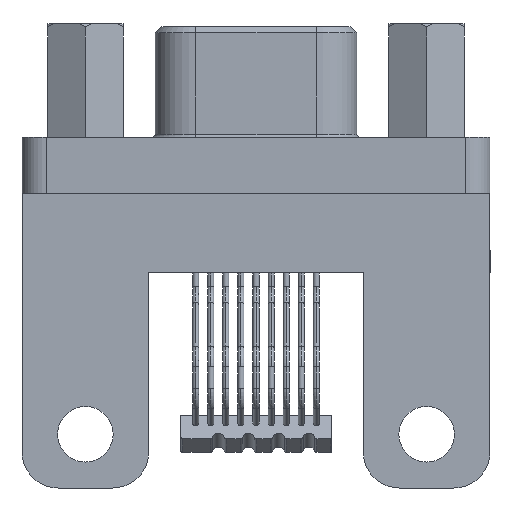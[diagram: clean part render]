
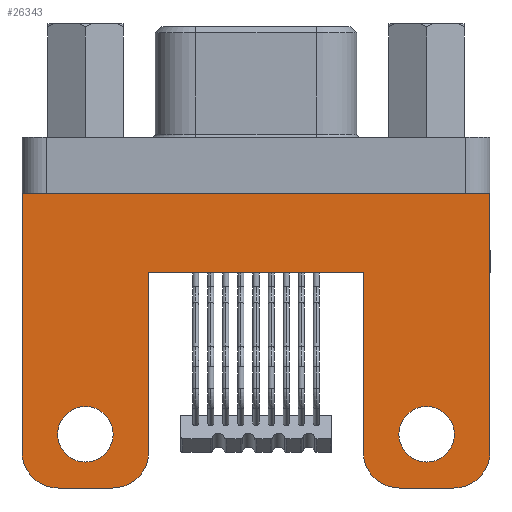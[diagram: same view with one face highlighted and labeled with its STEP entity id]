
A CAD part, front view. The second image highlights one B-rep face of the part: STEP entity #26343.
In plain terms, the highlighted planar face has unit normal (0, -1, 0).
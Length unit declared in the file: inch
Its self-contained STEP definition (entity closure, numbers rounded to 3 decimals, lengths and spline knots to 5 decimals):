
#538 = VERTEX_POINT ( 'NONE', #15793 ) ;
#675 = VECTOR ( 'NONE', #11310, 39.37008 ) ;
#853 = LINE ( 'NONE', #15294, #14038 ) ;
#990 = CIRCLE ( 'NONE', #45632, 0.046 ) ;
#1903 = ORIENTED_EDGE ( 'NONE', *, *, #36820, .F. ) ;
#2058 = EDGE_CURVE ( 'NONE', #5656, #5600, #6102, .T. ) ;
#2093 = CARTESIAN_POINT ( 'NONE',  ( -0.2825, -0.17, -0.496 ) ) ;
#2139 = VERTEX_POINT ( 'NONE', #28234 ) ;
#2302 = PLANE ( 'NONE',  #13238 ) ;
#3594 = ORIENTED_EDGE ( 'NONE', *, *, #45922, .T. ) ;
#3885 = DIRECTION ( 'NONE',  ( 0., -1., 0. ) ) ;
#3918 = DIRECTION ( 'NONE',  ( 0., 0., 1. ) ) ;
#4106 = LINE ( 'NONE', #21437, #39034 ) ;
#4772 = EDGE_LOOP ( 'NONE', ( #13291, #39200, #23576, #6573, #1903, #31386, #7840, #3594, #12936, #13112, #33176, #25483 ) ) ;
#4942 = EDGE_CURVE ( 'NONE', #2139, #21550, #12815, .T. ) ;
#5188 = VERTEX_POINT ( 'NONE', #11355 ) ;
#5600 = VERTEX_POINT ( 'NONE', #26969 ) ;
#5656 = VERTEX_POINT ( 'NONE', #45403 ) ;
#6102 = CIRCLE ( 'NONE', #32632, 0.06 ) ;
#6145 = DIRECTION ( 'NONE',  ( 0., 0., 1. ) ) ;
#6360 = DIRECTION ( 'NONE',  ( 0., 0., 1. ) ) ;
#6411 = VECTOR ( 'NONE', #44078, 39.37008 ) ;
#6573 = ORIENTED_EDGE ( 'NONE', *, *, #4942, .T. ) ;
#7472 = CARTESIAN_POINT ( 'NONE',  ( 0.2375, -0.17, -0.479 ) ) ;
#7840 = ORIENTED_EDGE ( 'NONE', *, *, #43621, .F. ) ;
#8022 = CARTESIAN_POINT ( 'NONE',  ( 0.2825, -0.17, -0.496 ) ) ;
#8825 = DIRECTION ( 'NONE',  ( 0., -1., 0. ) ) ;
#9018 = CARTESIAN_POINT ( 'NONE',  ( 0.3875, -0.17, -0.051 ) ) ;
#9262 = EDGE_CURVE ( 'NONE', #38410, #9884, #14976, .T. ) ;
#9456 = DIRECTION ( 'NONE',  ( 0., 1., 0. ) ) ;
#9884 = VERTEX_POINT ( 'NONE', #2093 ) ;
#10260 = VERTEX_POINT ( 'NONE', #37255 ) ;
#11085 = CARTESIAN_POINT ( 'NONE',  ( 0.3875, -0.17, -0.182 ) ) ;
#11310 = DIRECTION ( 'NONE',  ( 1., 0., 0. ) ) ;
#11355 = CARTESIAN_POINT ( 'NONE',  ( 0.1775, -0.17, -0.182 ) ) ;
#11385 = CARTESIAN_POINT ( 'NONE',  ( 0.3275, -0.17, -0.479 ) ) ;
#12348 = ORIENTED_EDGE ( 'NONE', *, *, #46125, .T. ) ;
#12466 = CARTESIAN_POINT ( 'NONE',  ( -0.2825, -0.17, -0.45 ) ) ;
#12475 = ORIENTED_EDGE ( 'NONE', *, *, #9262, .T. ) ;
#12595 = EDGE_CURVE ( 'NONE', #538, #16346, #34832, .T. ) ;
#12814 = DIRECTION ( 'NONE',  ( 0., 0., 1. ) ) ;
#12815 = LINE ( 'NONE', #9018, #23758 ) ;
#12936 = ORIENTED_EDGE ( 'NONE', *, *, #12595, .T. ) ;
#13112 = ORIENTED_EDGE ( 'NONE', *, *, #41675, .T. ) ;
#13238 = AXIS2_PLACEMENT_3D ( 'NONE', #13669, #35272, #43060 ) ;
#13291 = ORIENTED_EDGE ( 'NONE', *, *, #26485, .F. ) ;
#13669 = CARTESIAN_POINT ( 'NONE',  ( 0.3875, -0.17, -1.02047 ) ) ;
#14038 = VECTOR ( 'NONE', #29777, 39.37008 ) ;
#14289 = EDGE_CURVE ( 'NONE', #24153, #2139, #18969, .T. ) ;
#14498 = CIRCLE ( 'NONE', #39506, 0.046 ) ;
#14952 = DIRECTION ( 'NONE',  ( 0., 0., 1. ) ) ;
#14976 = CIRCLE ( 'NONE', #20266, 0.046 ) ;
#15234 = CARTESIAN_POINT ( 'NONE',  ( -0.2375, -0.17, -0.479 ) ) ;
#15294 = CARTESIAN_POINT ( 'NONE',  ( 0.3875, -0.17, -0.539 ) ) ;
#15621 = VERTEX_POINT ( 'NONE', #39871 ) ;
#15793 = CARTESIAN_POINT ( 'NONE',  ( -0.1775, -0.17, -0.479 ) ) ;
#16346 = VERTEX_POINT ( 'NONE', #30976 ) ;
#17027 = AXIS2_PLACEMENT_3D ( 'NONE', #12466, #45182, #30513 ) ;
#18123 = DIRECTION ( 'NONE',  ( 0., 0., 1. ) ) ;
#18344 = CIRCLE ( 'NONE', #44828, 0.06 ) ;
#18356 = DIRECTION ( 'NONE',  ( 0., 0., 1. ) ) ;
#18571 = CARTESIAN_POINT ( 'NONE',  ( -0.3875, -0.17, -0.539 ) ) ;
#18929 = AXIS2_PLACEMENT_3D ( 'NONE', #11385, #39359, #39834 ) ;
#18969 = LINE ( 'NONE', #26345, #6411 ) ;
#19116 = CARTESIAN_POINT ( 'NONE',  ( 0.3875, -0.17, -0.479 ) ) ;
#19895 = EDGE_CURVE ( 'NONE', #15621, #10260, #21027, .T. ) ;
#20266 = AXIS2_PLACEMENT_3D ( 'NONE', #45069, #34180, #12814 ) ;
#20317 = FACE_BOUND ( 'NONE', #46152, .T. ) ;
#21027 = CIRCLE ( 'NONE', #39167, 0.06 ) ;
#21437 = CARTESIAN_POINT ( 'NONE',  ( -0.3875, -0.17, -1.02047 ) ) ;
#21550 = VERTEX_POINT ( 'NONE', #43520 ) ;
#21753 = VERTEX_POINT ( 'NONE', #36597 ) ;
#22221 = EDGE_CURVE ( 'NONE', #31790, #46656, #14498, .T. ) ;
#23527 = DIRECTION ( 'NONE',  ( -1., 0., 0. ) ) ;
#23576 = ORIENTED_EDGE ( 'NONE', *, *, #14289, .T. ) ;
#23758 = VECTOR ( 'NONE', #23527, 39.37008 ) ;
#23791 = CARTESIAN_POINT ( 'NONE',  ( 0.2825, -0.17, -0.404 ) ) ;
#23963 = DIRECTION ( 'NONE',  ( 0., 0., 1. ) ) ;
#24153 = VERTEX_POINT ( 'NONE', #19116 ) ;
#24286 = CIRCLE ( 'NONE', #18929, 0.06 ) ;
#24868 = ORIENTED_EDGE ( 'NONE', *, *, #22221, .T. ) ;
#25483 = ORIENTED_EDGE ( 'NONE', *, *, #2058, .T. ) ;
#26127 = DIRECTION ( 'NONE',  ( 0., 0., 1. ) ) ;
#26343 = ADVANCED_FACE ( 'NONE', ( #44997, #20317, #34800 ), #2302, .F. ) ;
#26345 = CARTESIAN_POINT ( 'NONE',  ( 0.3875, -0.17, -1.02047 ) ) ;
#26485 = EDGE_CURVE ( 'NONE', #21753, #5600, #853, .T. ) ;
#26969 = CARTESIAN_POINT ( 'NONE',  ( 0.2375, -0.17, -0.539 ) ) ;
#27005 = CIRCLE ( 'NONE', #17027, 0.046 ) ;
#27183 = EDGE_CURVE ( 'NONE', #9884, #38410, #27005, .T. ) ;
#28234 = CARTESIAN_POINT ( 'NONE',  ( 0.3875, -0.17, -0.051 ) ) ;
#29312 = EDGE_CURVE ( 'NONE', #21753, #24153, #24286, .T. ) ;
#29777 = DIRECTION ( 'NONE',  ( -1., 0., 0. ) ) ;
#30212 = EDGE_CURVE ( 'NONE', #5656, #5188, #33917, .T. ) ;
#30346 = EDGE_LOOP ( 'NONE', ( #12475, #36347 ) ) ;
#30513 = DIRECTION ( 'NONE',  ( 0., 0., 1. ) ) ;
#30976 = CARTESIAN_POINT ( 'NONE',  ( -0.1775, -0.17, -0.182 ) ) ;
#31054 = CARTESIAN_POINT ( 'NONE',  ( 0.2825, -0.17, -0.45 ) ) ;
#31300 = DIRECTION ( 'NONE',  ( 0., -1., 0. ) ) ;
#31386 = ORIENTED_EDGE ( 'NONE', *, *, #19895, .T. ) ;
#31790 = VERTEX_POINT ( 'NONE', #8022 ) ;
#32632 = AXIS2_PLACEMENT_3D ( 'NONE', #7472, #8825, #3918 ) ;
#33043 = DIRECTION ( 'NONE',  ( -1., 0., 0. ) ) ;
#33176 = ORIENTED_EDGE ( 'NONE', *, *, #30212, .F. ) ;
#33917 = LINE ( 'NONE', #41250, #44783 ) ;
#34044 = VECTOR ( 'NONE', #6360, 39.37008 ) ;
#34180 = DIRECTION ( 'NONE',  ( 0., 1., 0. ) ) ;
#34800 = FACE_OUTER_BOUND ( 'NONE', #4772, .T. ) ;
#34832 = LINE ( 'NONE', #46422, #34044 ) ;
#35272 = DIRECTION ( 'NONE',  ( 0., 1., 0. ) ) ;
#36347 = ORIENTED_EDGE ( 'NONE', *, *, #27183, .T. ) ;
#36597 = CARTESIAN_POINT ( 'NONE',  ( 0.3275, -0.17, -0.539 ) ) ;
#36622 = CARTESIAN_POINT ( 'NONE',  ( -0.2375, -0.17, -0.539 ) ) ;
#36820 = EDGE_CURVE ( 'NONE', #15621, #21550, #4106, .T. ) ;
#37255 = CARTESIAN_POINT ( 'NONE',  ( -0.3275, -0.17, -0.539 ) ) ;
#38410 = VERTEX_POINT ( 'NONE', #45427 ) ;
#38605 = CARTESIAN_POINT ( 'NONE',  ( -0.3275, -0.17, -0.479 ) ) ;
#39034 = VECTOR ( 'NONE', #18123, 39.37008 ) ;
#39167 = AXIS2_PLACEMENT_3D ( 'NONE', #38605, #31300, #6145 ) ;
#39200 = ORIENTED_EDGE ( 'NONE', *, *, #29312, .T. ) ;
#39336 = VECTOR ( 'NONE', #33043, 39.37008 ) ;
#39359 = DIRECTION ( 'NONE',  ( 0., -1., 0. ) ) ;
#39506 = AXIS2_PLACEMENT_3D ( 'NONE', #44104, #43191, #14952 ) ;
#39834 = DIRECTION ( 'NONE',  ( 0., 0., 1. ) ) ;
#39871 = CARTESIAN_POINT ( 'NONE',  ( -0.3875, -0.17, -0.479 ) ) ;
#40132 = LINE ( 'NONE', #18571, #39336 ) ;
#40232 = LINE ( 'NONE', #11085, #675 ) ;
#41250 = CARTESIAN_POINT ( 'NONE',  ( 0.1775, -0.17, -1.3384 ) ) ;
#41675 = EDGE_CURVE ( 'NONE', #16346, #5188, #40232, .T. ) ;
#42595 = VERTEX_POINT ( 'NONE', #36622 ) ;
#43060 = DIRECTION ( 'NONE',  ( 0., 0., 1. ) ) ;
#43191 = DIRECTION ( 'NONE',  ( 0., 1., 0. ) ) ;
#43520 = CARTESIAN_POINT ( 'NONE',  ( -0.3875, -0.17, -0.051 ) ) ;
#43621 = EDGE_CURVE ( 'NONE', #42595, #10260, #40132, .T. ) ;
#44078 = DIRECTION ( 'NONE',  ( 0., 0., 1. ) ) ;
#44104 = CARTESIAN_POINT ( 'NONE',  ( 0.2825, -0.17, -0.45 ) ) ;
#44783 = VECTOR ( 'NONE', #26127, 39.37008 ) ;
#44828 = AXIS2_PLACEMENT_3D ( 'NONE', #15234, #3885, #18356 ) ;
#44997 = FACE_BOUND ( 'NONE', #30346, .T. ) ;
#45069 = CARTESIAN_POINT ( 'NONE',  ( -0.2825, -0.17, -0.45 ) ) ;
#45182 = DIRECTION ( 'NONE',  ( 0., 1., 0. ) ) ;
#45403 = CARTESIAN_POINT ( 'NONE',  ( 0.1775, -0.17, -0.479 ) ) ;
#45427 = CARTESIAN_POINT ( 'NONE',  ( -0.2825, -0.17, -0.404 ) ) ;
#45632 = AXIS2_PLACEMENT_3D ( 'NONE', #31054, #9456, #23963 ) ;
#45922 = EDGE_CURVE ( 'NONE', #42595, #538, #18344, .T. ) ;
#46125 = EDGE_CURVE ( 'NONE', #46656, #31790, #990, .T. ) ;
#46152 = EDGE_LOOP ( 'NONE', ( #12348, #24868 ) ) ;
#46422 = CARTESIAN_POINT ( 'NONE',  ( -0.1775, -0.17, -1.3384 ) ) ;
#46656 = VERTEX_POINT ( 'NONE', #23791 ) ;
